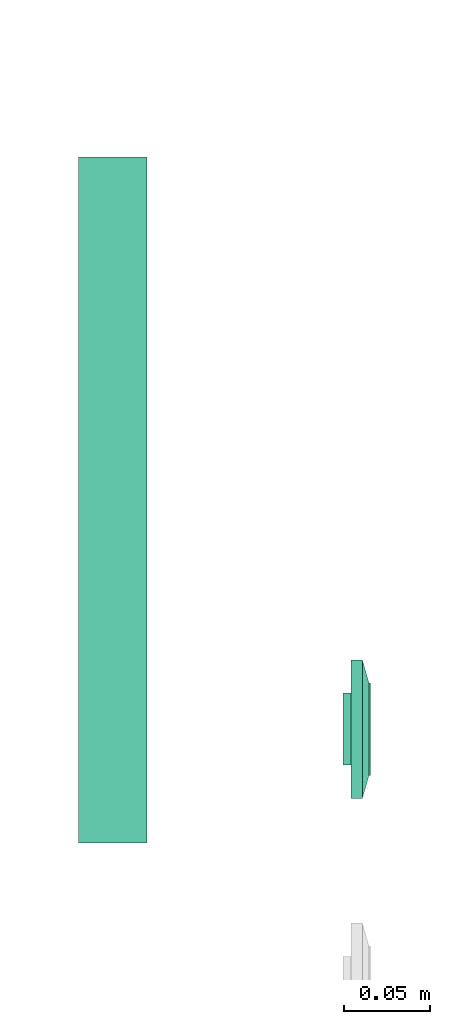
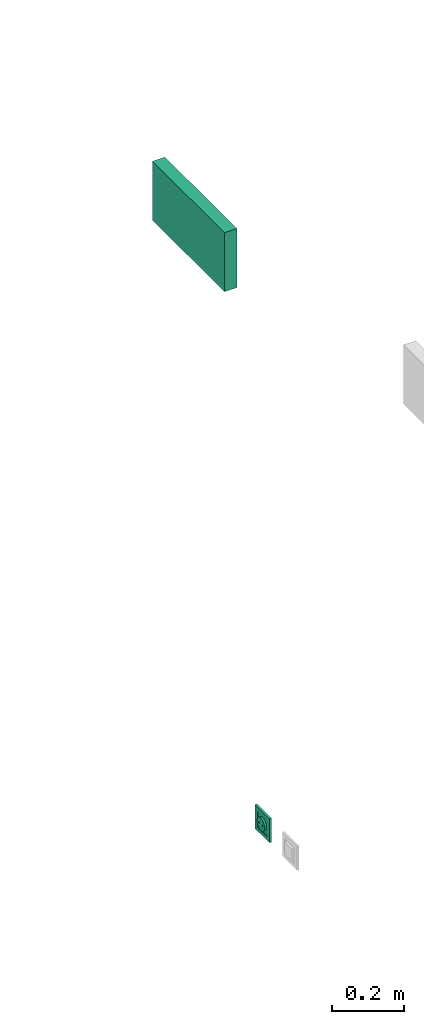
# One storey, part 63 of 146: 2 flow terminals.
"""IFC2X3 building model written with IfcOpenShell, lengths in metres."""

from ifc_helpers import new_model, entity, si_unit, converted_unit, derived_unit, direction, frame, frame_2d, origin, place, context, subcontext, project, spatial, rectangle, extrude, face_set, surface_model, source, transform, mapped, type_object, type_shapes, element, save


model = new_model("IFC2X3")

# Units and contexts
model_context = context("Model", 3, precision=1e-05, world=origin(), true_north=direction((6.12303176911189e-17, 1.0)))
body_context = subcontext(model_context, "Body", "Model", "MODEL_VIEW")
ifc_project = project(units=[si_unit("LENGTHUNIT", "METRE"), si_unit("AREAUNIT", "SQUARE_METRE"), si_unit("VOLUMEUNIT", "CUBIC_METRE"), converted_unit("PLANEANGLEUNIT", "DEGREE", entity("IfcRatioMeasure", 0.0174532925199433), si_unit("PLANEANGLEUNIT", "RADIAN"), dimensions=[0, 0, 0, 0, 0, 0, 0]), si_unit("MASSUNIT", "GRAM", prefix="KILO"), derived_unit("MASSDENSITYUNIT", [(si_unit("MASSUNIT", "GRAM", prefix="KILO"), 1), (si_unit("LENGTHUNIT", "METRE"), -3)]), si_unit("TIMEUNIT", "SECOND"), si_unit("FREQUENCYUNIT", "HERTZ"), si_unit("THERMODYNAMICTEMPERATUREUNIT", "DEGREE_CELSIUS"), derived_unit("THERMALTRANSMITTANCEUNIT", [(si_unit("MASSUNIT", "GRAM", prefix="KILO"), 1), (si_unit("THERMODYNAMICTEMPERATUREUNIT", "KELVIN"), -1), (si_unit("TIMEUNIT", "SECOND"), -3)]), derived_unit("VOLUMETRICFLOWRATEUNIT", [(si_unit("LENGTHUNIT", "METRE"), 3), (si_unit("TIMEUNIT", "SECOND"), -1)]), si_unit("ELECTRICCURRENTUNIT", "AMPERE"), si_unit("ELECTRICVOLTAGEUNIT", "VOLT"), si_unit("POWERUNIT", "WATT"), si_unit("FORCEUNIT", "NEWTON"), si_unit("ILLUMINANCEUNIT", "LUX"), si_unit("LUMINOUSFLUXUNIT", "LUMEN"), si_unit("LUMINOUSINTENSITYUNIT", "CANDELA"), derived_unit("USERDEFINED", [(si_unit("MASSUNIT", "GRAM", prefix="KILO"), -1), (si_unit("LENGTHUNIT", "METRE"), -2), (si_unit("TIMEUNIT", "SECOND"), 3), (si_unit("LUMINOUSFLUXUNIT", "LUMEN"), 1)]), derived_unit("LINEARVELOCITYUNIT", [(si_unit("LENGTHUNIT", "METRE"), 1), (si_unit("TIMEUNIT", "SECOND"), -1)]), si_unit("PRESSUREUNIT", "PASCAL"), derived_unit("USERDEFINED", [(si_unit("LENGTHUNIT", "METRE"), -2), (si_unit("MASSUNIT", "GRAM", prefix="KILO"), 1), (si_unit("TIMEUNIT", "SECOND"), -2)])], contexts=[model_context])

# Site, building, storey
site_placement = place(None, origin())
site = spatial("IfcSite", under=ifc_project, at=site_placement, Name="Default", CompositionType="ELEMENT")
building_placement = place(site_placement, origin())
building = spatial("IfcBuilding", under=site, at=building_placement, CompositionType="ELEMENT")
storey_placement = place(building_placement, origin())
storey = spatial("IfcBuildingStorey", under=building, at=storey_placement, Name="S01", CompositionType="ELEMENT", Elevation=0.0)

# Flow terminals
light_fixture_type = type_object("IfcLightFixtureType", Name="PC IP21", PredefinedType="NOTDEFINED")
shared_shape_1 = source(origin(), body_context, "Body", "SurfaceModel", [
    surface_model("IfcFaceBasedSurfaceModel", [(-0.00225000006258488, 0.0127499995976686, 0.00949633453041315), (0.0, 0.0104999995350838, 0.00949633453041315), (0.0, 0.0115376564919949, 0.0101656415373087), (0.0, 0.0139623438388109, 0.0101656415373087), (0.0, 0.0144589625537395, 0.00984531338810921), (0.0, 0.0121178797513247, 0.0102778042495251), (0.0, 0.0133821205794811, 0.0102778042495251), (0.0, 0.0127499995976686, 0.010399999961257), (0.0, 0.0149999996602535, 0.00949633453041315), (0.00225000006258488, 0.0127499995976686, 0.00949633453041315), (0.0, 0.0110410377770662, 0.00984531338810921), (0.0, 0.0127499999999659, 0.00949633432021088), (0.00225000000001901, 0.0127499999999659, 0.00949633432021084), (0.00217333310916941, 0.0121676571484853, 0.00949633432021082), (0.00194855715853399, 0.0116249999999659, 0.00949633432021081), (0.00159099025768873, 0.0111590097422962, 0.00949633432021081), (0.001125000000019, 0.010801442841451, 0.00949633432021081), (0.00058234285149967, 0.0105766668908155, 0.00949633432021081), (0.0, 0.0104999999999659, 0.00949633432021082), (-0.000582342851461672, 0.0105766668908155, 0.00949633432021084), (-0.001124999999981, 0.010801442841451, 0.00949633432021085), (-0.00159099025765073, 0.0111590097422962, 0.00949633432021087), (-0.00194855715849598, 0.011624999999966, 0.00949633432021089), (-0.0021733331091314, 0.0121676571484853, 0.00949633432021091), (-0.00224999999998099, 0.012749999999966, 0.00949633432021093), (-0.00217333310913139, 0.0133323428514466, 0.00949633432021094), (-0.00194855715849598, 0.013874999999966, 0.00949633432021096), (-0.00159099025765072, 0.0143409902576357, 0.00949633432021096), (-0.00112499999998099, 0.0146985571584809, 0.00949633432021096), (-0.00058234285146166, 0.0149233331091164, 0.00949633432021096), (0.0, 0.0149999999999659, 0.00949633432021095), (0.000582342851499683, 0.0149233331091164, 0.00949633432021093), (0.00112500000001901, 0.0146985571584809, 0.00949633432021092), (0.00159099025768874, 0.0143409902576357, 0.00949633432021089), (0.001948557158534, 0.0138749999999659, 0.00949633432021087), (0.00217333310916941, 0.0133323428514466, 0.00949633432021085), (0.00225000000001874, 0.0127499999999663, -0.00360000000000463), (0.00217333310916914, 0.0121676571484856, -0.00360000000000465), (0.00194855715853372, 0.0116249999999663, -0.00360000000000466), (0.00159099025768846, 0.0111590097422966, -0.00360000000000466), (0.00112500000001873, 0.0108014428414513, -0.00360000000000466), (0.000582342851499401, 0.0105766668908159, -0.00360000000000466), (0.0, 0.0104999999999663, -0.00360000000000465), (-0.000582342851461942, 0.0105766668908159, -0.00360000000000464), (-0.00112499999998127, 0.0108014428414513, -0.00360000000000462), (-0.001590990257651, 0.0111590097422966, -0.0036000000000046), (-0.00194855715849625, 0.0116249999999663, -0.00360000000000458), (-0.00217333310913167, 0.0121676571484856, -0.00360000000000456), (-0.00224999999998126, 0.0127499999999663, -0.00360000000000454), (-0.00217333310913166, 0.013332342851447, -0.00360000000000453), (-0.00194855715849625, 0.0138749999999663, -0.00360000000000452), (-0.00159099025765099, 0.014340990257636, -0.00360000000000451), (-0.00112499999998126, 0.0146985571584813, -0.00360000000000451), (-0.000582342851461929, 0.0149233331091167, -0.00360000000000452), (0.0, 0.0149999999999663, -0.00360000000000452), (0.000582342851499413, 0.0149233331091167, -0.00360000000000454), (0.00112500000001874, 0.0146985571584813, -0.00360000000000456), (0.00159099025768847, 0.014340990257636, -0.00360000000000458), (0.00194855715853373, 0.0138749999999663, -0.0036000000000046), (0.00217333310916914, 0.013332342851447, -0.00360000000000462), (0.0270000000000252, 0.026999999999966, 0.0113999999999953), (-0.0269999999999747, 0.026999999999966, 0.0113999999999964), (-0.0269999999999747, -0.0270000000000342, 0.0113999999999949), (0.0270000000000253, -0.0270000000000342, 0.0113999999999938), (-0.0199999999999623, 0.0, 0.0113999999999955), (-0.0193185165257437, -0.00517638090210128, 0.0113999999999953), (-0.0173205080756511, -0.0100000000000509, 0.0113999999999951), (-0.0141421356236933, -0.0141421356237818, 0.011399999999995), (-0.00999999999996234, -0.0173205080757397, 0.0113999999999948), (-0.00517638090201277, -0.0193185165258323, 0.0113999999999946), (0.0, -0.0200000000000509, 0.0113999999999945), (0.00517638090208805, -0.0193185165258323, 0.0113999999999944), (0.0100000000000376, -0.0173205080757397, 0.0113999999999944), (0.0141421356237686, -0.0141421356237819, 0.0113999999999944), (0.0173205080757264, -0.010000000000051, 0.0113999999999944), (0.0193185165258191, -0.00517638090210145, 0.0113999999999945), (0.0200000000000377, 0.0, 0.0113999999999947), (0.0193185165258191, 0.00517638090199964, 0.0113999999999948), (0.0173205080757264, 0.0099999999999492, 0.011399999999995), (0.0141421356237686, 0.0141421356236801, 0.0113999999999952), (0.0100000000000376, 0.0173205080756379, 0.0113999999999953), (0.00517638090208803, 0.0193185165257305, 0.0113999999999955), (0.0, 0.0199999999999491, 0.0113999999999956), (-0.00517638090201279, 0.0193185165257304, 0.0113999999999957), (-0.00999999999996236, 0.0173205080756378, 0.0113999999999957), (-0.0141421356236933, 0.01414213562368, 0.0113999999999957), (-0.0173205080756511, 0.00999999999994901, 0.0113999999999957), (-0.0193185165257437, 0.00517638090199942, 0.0113999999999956), (0.0270000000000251, 0.0269999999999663, 0.00199999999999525), (0.0270000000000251, -0.0270000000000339, 0.00199999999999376), (-0.0269999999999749, -0.0270000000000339, 0.00199999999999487), (-0.0269999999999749, 0.0269999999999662, 0.00199999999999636), (0.0210000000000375, 0.0, 0.00199999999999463), (0.0202844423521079, -0.00543519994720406, 0.00199999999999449), (0.0181865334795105, -0.0105000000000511, 0.0019999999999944), (0.0148492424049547, -0.0148492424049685, 0.00199999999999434), (0.0105000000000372, -0.0181865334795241, 0.00199999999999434), (0.0054351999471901, -0.0202844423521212, 0.00199999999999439), (0.0, -0.0210000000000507, 0.00199999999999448), (-0.00543519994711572, -0.020284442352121, 0.00199999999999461), (-0.0104999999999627, -0.0181865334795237, 0.00199999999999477), (-0.0148492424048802, -0.014849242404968, 0.00199999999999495), (-0.0181865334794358, -0.0105000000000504, 0.00199999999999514), (-0.020284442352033, -0.00543519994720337, 0.00199999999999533), (-0.0209999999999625, 0.0, 0.00199999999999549), (-0.0202844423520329, 0.0054351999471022, 0.00199999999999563), (-0.0181865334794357, 0.0104999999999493, 0.00199999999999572), (-0.01484924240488, 0.0148492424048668, 0.00199999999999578), (-0.0104999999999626, 0.0181865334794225, 0.00199999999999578), (-0.00543519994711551, 0.0202844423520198, 0.00199999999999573), (0.0, 0.0209999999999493, 0.00199999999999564), (0.00543519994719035, 0.0202844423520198, 0.00199999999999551), (0.0105000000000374, 0.0181865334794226, 0.00199999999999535), (0.0148492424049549, 0.0148492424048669, 0.00199999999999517), (0.0181865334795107, 0.0104999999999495, 0.00199999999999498), (0.0202844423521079, 0.00543519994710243, 0.00199999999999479), (0.0200000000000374, 0.0, -0.00360000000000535), (0.0193185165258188, -0.00517638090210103, -0.00360000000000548), (0.0173205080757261, -0.0100000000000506, -0.00360000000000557), (0.0141421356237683, -0.0141421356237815, -0.00360000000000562), (0.0100000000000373, -0.0173205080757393, -0.00360000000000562), (0.00517638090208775, -0.0193185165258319, -0.00360000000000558), (0.0, -0.0200000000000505, -0.00360000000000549), (-0.00517638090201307, -0.0193185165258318, -0.00360000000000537), (-0.00999999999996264, -0.0173205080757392, -0.00360000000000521), (-0.0141421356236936, -0.0141421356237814, -0.00360000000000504), (-0.0173205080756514, -0.0100000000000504, -0.00360000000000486), (-0.019318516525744, -0.00517638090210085, -0.00360000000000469), (-0.0199999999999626, 0.0, -0.00360000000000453), (-0.0193185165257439, 0.00517638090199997, -0.0036000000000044), (-0.0173205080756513, 0.00999999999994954, -0.00360000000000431), (-0.0141421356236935, 0.0141421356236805, -0.00360000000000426), (-0.00999999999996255, 0.0173205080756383, -0.00360000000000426), (-0.00517638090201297, 0.0193185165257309, -0.0036000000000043), (0.0, 0.0199999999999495, -0.00360000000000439), (0.00517638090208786, 0.0193185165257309, -0.00360000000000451), (0.0100000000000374, 0.0173205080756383, -0.00360000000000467), (0.0141421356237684, 0.0141421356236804, -0.00360000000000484), (0.0173205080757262, 0.0099999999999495, -0.00360000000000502), (0.0193185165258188, 0.00517638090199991, -0.00360000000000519), (-0.0123499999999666, 0.0, -0.00360000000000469), (-0.0122562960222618, -0.000711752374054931, -0.00360000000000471), (-0.0119815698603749, -0.00137500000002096, -0.00360000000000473), (-0.0115445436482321, -0.00194454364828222, -0.00360000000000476), (-0.0109749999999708, -0.00238156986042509, -0.00360000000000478), (-0.0103117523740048, -0.00265629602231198, -0.0036000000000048), (-0.00959999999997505, -0.00275000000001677, -0.00360000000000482), (-0.0088882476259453, -0.00265629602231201, -0.00360000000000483), (-0.00822499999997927, -0.00238156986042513, -0.00360000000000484), (-0.00765545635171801, -0.00194454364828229, -0.00360000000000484), (-0.00721843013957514, -0.00137500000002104, -0.00360000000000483), (-0.00694370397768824, -0.000711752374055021, -0.00360000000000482), (-0.00684999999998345, 0.0, -0.0036000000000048), (-0.00694370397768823, 0.000711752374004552, -0.00360000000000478), (-0.00721843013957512, 0.00137499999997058, -0.00360000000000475), (-0.00765545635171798, 0.00194454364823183, -0.00360000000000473), (-0.00822499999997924, 0.00238156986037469, -0.0036000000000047), (-0.00888824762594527, 0.00265629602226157, -0.00360000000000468), (-0.00959999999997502, 0.00274999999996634, -0.00360000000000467), (-0.0103117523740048, 0.00265629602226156, -0.00360000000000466), (-0.0109749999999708, 0.00238156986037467, -0.00360000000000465), (-0.011544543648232, 0.00194454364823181, -0.00360000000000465), (-0.0119815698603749, 0.00137499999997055, -0.00360000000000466), (-0.0122562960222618, 0.000711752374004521, -0.00360000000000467), (0.00685000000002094, 0.0, -0.00360000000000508), (0.0069437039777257, -0.00071175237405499, -0.0036000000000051), (0.00721843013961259, -0.00137500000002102, -0.00360000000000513), (0.00765545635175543, -0.00194454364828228, -0.00360000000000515), (0.00822500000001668, -0.00238156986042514, -0.00360000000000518), (0.00888824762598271, -0.00265629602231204, -0.0036000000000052), (0.00960000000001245, -0.00275000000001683, -0.00360000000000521), (0.0103117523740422, -0.00265629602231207, -0.00360000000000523), (0.0109750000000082, -0.00238156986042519, -0.00360000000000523), (0.0115445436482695, -0.00194454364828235, -0.00360000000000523), (0.0119815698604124, -0.0013750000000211, -0.00360000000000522), (0.0122562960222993, -0.00071175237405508, -0.00360000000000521), (0.012350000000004, 0.0, -0.00360000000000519), (0.0122562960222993, 0.000711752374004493, -0.00360000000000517), (0.0119815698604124, 0.00137499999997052, -0.00360000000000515), (0.0115445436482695, 0.00194454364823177, -0.00360000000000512), (0.0109750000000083, 0.00238156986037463, -0.0036000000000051), (0.0103117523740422, 0.00265629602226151, -0.00360000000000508), (0.00960000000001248, 0.00274999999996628, -0.00360000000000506), (0.00888824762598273, 0.0026562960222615, -0.00360000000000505), (0.0082250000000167, 0.00238156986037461, -0.00360000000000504), (0.00765545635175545, 0.00194454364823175, -0.00360000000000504), (0.0072184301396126, 0.00137499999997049, -0.00360000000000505), (0.00694370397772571, 0.000711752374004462, -0.00360000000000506), (0.0210000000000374, 0.0, -0.00460000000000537), (0.0202844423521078, -0.00543519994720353, -0.00460000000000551), (0.0181865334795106, -0.0105000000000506, -0.0046000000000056), (0.0148492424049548, -0.0148492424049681, -0.00460000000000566), (0.0105000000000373, -0.0181865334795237, -0.00460000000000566), (0.00543519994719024, -0.0202844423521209, -0.00460000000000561), (0.0, -0.0210000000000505, -0.00460000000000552), (-0.00543519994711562, -0.0202844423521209, -0.00460000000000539), (-0.0104999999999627, -0.0181865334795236, -0.00460000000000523), (-0.0148492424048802, -0.0148492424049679, -0.00460000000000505), (-0.0181865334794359, -0.0105000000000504, -0.00460000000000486), (-0.0202844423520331, -0.00543519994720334, -0.00460000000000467), (-0.0209999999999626, 0.0, -0.00460000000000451), (-0.020284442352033, 0.00543519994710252, -0.00460000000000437), (-0.0181865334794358, 0.0104999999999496, -0.00460000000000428), (-0.0148492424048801, 0.0148492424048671, -0.00460000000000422), (-0.0104999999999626, 0.0181865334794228, -0.00460000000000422), (-0.00543519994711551, 0.02028444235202, -0.00460000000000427), (0.0, 0.0209999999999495, -0.00460000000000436), (0.00543519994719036, 0.02028444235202, -0.00460000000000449), (0.0105000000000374, 0.0181865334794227, -0.00460000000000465), (0.0148492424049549, 0.014849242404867, -0.00460000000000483), (0.0181865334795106, 0.0104999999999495, -0.00460000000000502), (0.0202844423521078, 0.00543519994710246, -0.00460000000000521), (-0.00684999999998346, 0.0, -0.0046000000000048), (-0.00694370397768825, 0.000711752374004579, -0.00460000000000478), (-0.00721843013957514, 0.00137499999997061, -0.00460000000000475), (-0.007655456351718, 0.00194454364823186, -0.00460000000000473), (-0.00822499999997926, 0.00238156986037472, -0.0046000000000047), (-0.00888824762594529, 0.0026562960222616, -0.00460000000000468), (-0.00959999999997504, 0.00274999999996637, -0.00460000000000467), (-0.0103117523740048, 0.00265629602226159, -0.00460000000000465), (-0.0109749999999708, 0.0023815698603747, -0.00460000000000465), (-0.0115445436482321, 0.00194454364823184, -0.00460000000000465), (-0.0119815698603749, 0.00137499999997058, -0.00460000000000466), (-0.0122562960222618, 0.000711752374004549, -0.00460000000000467), (-0.0123499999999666, 0.0, -0.00460000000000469), (-0.0122562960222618, -0.000711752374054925, -0.00460000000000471), (-0.0119815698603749, -0.00137500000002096, -0.00460000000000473), (-0.0115445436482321, -0.00194454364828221, -0.00460000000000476), (-0.0109749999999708, -0.00238156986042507, -0.00460000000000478), (-0.0103117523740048, -0.00265629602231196, -0.0046000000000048), (-0.00959999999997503, -0.00275000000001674, -0.00460000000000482), (-0.00888824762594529, -0.00265629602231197, -0.00460000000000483), (-0.00822499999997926, -0.00238156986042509, -0.00460000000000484), (-0.007655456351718, -0.00194454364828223, -0.00460000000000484), (-0.00721843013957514, -0.00137500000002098, -0.00460000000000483), (-0.00694370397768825, -0.000711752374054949, -0.00460000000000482), (0.012350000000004, 0.0, -0.00460000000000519), (0.0122562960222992, 0.000711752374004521, -0.00460000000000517), (0.0119815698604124, 0.00137499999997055, -0.00460000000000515), (0.0115445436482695, 0.0019445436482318, -0.00460000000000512), (0.0109750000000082, 0.00238156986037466, -0.0046000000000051), (0.0103117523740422, 0.00265629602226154, -0.00460000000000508), (0.00960000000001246, 0.00274999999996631, -0.00460000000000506), (0.00888824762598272, 0.00265629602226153, -0.00460000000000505), (0.00822500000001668, 0.00238156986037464, -0.00460000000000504), (0.00765545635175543, 0.00194454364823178, -0.00460000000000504), (0.00721843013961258, 0.00137499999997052, -0.00460000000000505), (0.00694370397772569, 0.00071175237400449, -0.00460000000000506), (0.00685000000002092, 0.0, -0.00460000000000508), (0.00694370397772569, -0.000711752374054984, -0.0046000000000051), (0.00721843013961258, -0.00137500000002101, -0.00460000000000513), (0.00765545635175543, -0.00194454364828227, -0.00460000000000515), (0.00822500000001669, -0.00238156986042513, -0.00460000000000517), (0.00888824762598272, -0.00265629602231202, -0.0046000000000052), (0.00960000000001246, -0.0027500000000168, -0.00460000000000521), (0.0103117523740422, -0.00265629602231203, -0.00460000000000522), (0.0109750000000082, -0.00238156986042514, -0.00460000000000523), (0.0115445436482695, -0.00194454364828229, -0.00460000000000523), (0.0119815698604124, -0.00137500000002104, -0.00460000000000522), (0.0122562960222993, -0.000711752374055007, -0.00460000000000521), (0.040350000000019, 0.0403499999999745, 0.00659999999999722), (0.040350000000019, -0.0403500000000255, 0.00659999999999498), (-0.0403499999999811, -0.0403500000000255, 0.00659999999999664), (-0.0403499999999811, 0.0403499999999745, 0.00659999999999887), (0.027000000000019, 0.0269999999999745, 0.00659999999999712), (-0.0269999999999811, 0.0269999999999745, 0.00659999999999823), (-0.026999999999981, -0.0270000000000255, 0.00659999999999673), (0.027000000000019, -0.0270000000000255, 0.00659999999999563), (0.027000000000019, 0.0269999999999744, 0.0103999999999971), (-0.026999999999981, 0.0269999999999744, 0.0103999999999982), (-0.026999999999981, -0.0270000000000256, 0.0103999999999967), (0.027000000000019, -0.0270000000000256, 0.0103999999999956), (0.040350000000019, 0.0403499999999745, 0.00659999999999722), (0.040350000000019, -0.0403500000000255, 0.00659999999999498), (-0.0403499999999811, -0.0403500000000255, 0.00659999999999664), (-0.0403499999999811, 0.0403499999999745, 0.00659999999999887), (-0.0269999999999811, 0.0269999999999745, 0.00659999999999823), (-0.0269999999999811, -0.0270000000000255, 0.00659999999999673), (0.0270000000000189, -0.0270000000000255, 0.00659999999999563), (0.0270000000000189, 0.0269999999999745, 0.00659999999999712), (0.0403500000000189, 0.0403499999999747, 0.0), (0.0403500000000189, -0.0403500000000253, 0.0), (-0.0403499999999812, -0.0403500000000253, 0.0), (-0.0403499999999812, 0.0403499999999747, 0.0), (0.0270000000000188, 0.0269999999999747, 0.0), (-0.0269999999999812, 0.0269999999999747, 0.0), (-0.0269999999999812, -0.0270000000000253, 0.0), (0.0270000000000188, -0.0270000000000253, 0.0)], [face_set([[[0, 1, 2]], [[3, 4, 2, 5]], [[6, 3, 5, 7]], [[2, 4, 0]], [[4, 8, 0]], [[3, 9, 8]], [[1, 9, 10]], [[2, 3, 6, 7]], [[3, 10, 9]], [[2, 10, 3]], [[11, 1, 0, 8]], [[11, 8, 9, 1]]]), face_set([[[12, 13, 14, 15, 16, 17, 18, 19, 20, 21, 22, 23, 24, 25, 26, 27, 28, 29, 30, 31, 32, 33, 34, 35]], [[36, 37, 38, 39, 40, 41, 42, 43, 44, 45, 46, 47, 48, 49, 50, 51, 52, 53, 54, 55, 56, 57, 58, 59]], [[48, 47, 23, 24]], [[47, 46, 22, 23]], [[45, 44, 20, 21]], [[46, 45, 21, 22]], [[44, 43, 19, 20]], [[18, 19, 43, 42]], [[42, 41, 17, 18]], [[41, 40, 16, 17]], [[39, 38, 14, 15]], [[40, 39, 15, 16]], [[38, 37, 13, 14]], [[12, 13, 37, 36]], [[36, 59, 35, 12]], [[59, 58, 34, 35]], [[57, 56, 32, 33]], [[58, 57, 33, 34]], [[56, 55, 31, 32]], [[30, 31, 55, 54]], [[54, 53, 29, 30]], [[53, 52, 28, 29]], [[51, 50, 26, 27]], [[52, 51, 27, 28]], [[50, 49, 25, 26]], [[24, 25, 49, 48]]]), face_set([[[60, 61, 62, 63], [64, 65, 66, 67, 68, 69, 70, 71, 72, 73, 74, 75, 76, 77, 78, 79, 80, 81, 82, 83, 84, 85, 86, 87]], [[88, 89, 90, 91], [92, 93, 94, 95, 96, 97, 98, 99, 100, 101, 102, 103, 104, 105, 106, 107, 108, 109, 110, 111, 112, 113, 114, 115]], [[61, 60, 88, 91]], [[62, 61, 91, 90]], [[63, 62, 90, 89]], [[60, 63, 89, 88]], [[116, 117, 118, 119, 120, 121, 122, 123, 124, 125, 126, 127, 128, 129, 130, 131, 132, 133, 134, 135, 136, 137, 138, 139], [140, 141, 142, 143, 144, 145, 146, 147, 148, 149, 150, 151, 152, 153, 154, 155, 156, 157, 158, 159, 160, 161, 162, 163], [164, 165, 166, 167, 168, 169, 170, 171, 172, 173, 174, 175, 176, 177, 178, 179, 180, 181, 182, 183, 184, 185, 186, 187]], [[64, 128, 127, 65]], [[65, 127, 126, 66]], [[67, 125, 124, 68]], [[66, 126, 125, 67]], [[68, 124, 123, 69]], [[122, 70, 69, 123]], [[70, 122, 121, 71]], [[71, 121, 120, 72]], [[73, 119, 118, 74]], [[72, 120, 119, 73]], [[74, 118, 117, 75]], [[116, 76, 75, 117]], [[76, 116, 139, 77]], [[77, 139, 138, 78]], [[79, 137, 136, 80]], [[78, 138, 137, 79]], [[80, 136, 135, 81]], [[134, 82, 81, 135]], [[82, 134, 133, 83]], [[83, 133, 132, 84]], [[84, 132, 131, 85]], [[85, 131, 130, 86]], [[130, 129, 87, 86]], [[64, 87, 129, 128]], [[188, 189, 190, 191, 192, 193, 194, 195, 196, 197, 198, 199, 200, 201, 202, 203, 204, 205, 206, 207, 208, 209, 210, 211], [212, 213, 214, 215, 216, 217, 218, 219, 220, 221, 222, 223, 224, 225, 226, 227, 228, 229, 230, 231, 232, 233, 234, 235], [236, 237, 238, 239, 240, 241, 242, 243, 244, 245, 246, 247, 248, 249, 250, 251, 252, 253, 254, 255, 256, 257, 258, 259]], [[200, 199, 103, 104]], [[199, 198, 102, 103]], [[197, 196, 100, 101]], [[198, 197, 101, 102]], [[196, 195, 99, 100]], [[98, 99, 195, 194]], [[194, 193, 97, 98]], [[193, 192, 96, 97]], [[191, 190, 94, 95]], [[192, 191, 95, 96]], [[190, 189, 93, 94]], [[92, 93, 189, 188]], [[188, 211, 115, 92]], [[211, 210, 114, 115]], [[209, 208, 112, 113]], [[210, 209, 113, 114]], [[208, 207, 111, 112]], [[110, 111, 207, 206]], [[206, 205, 109, 110]], [[205, 204, 108, 109]], [[203, 202, 106, 107]], [[204, 203, 107, 108]], [[202, 201, 105, 106]], [[104, 105, 201, 200]], [[141, 225, 226, 142]], [[140, 224, 225, 141]], [[144, 228, 229, 145]], [[143, 227, 228, 144]], [[142, 226, 227, 143]], [[230, 146, 145, 229]], [[149, 233, 232, 148]], [[148, 232, 231, 147]], [[152, 212, 235, 151]], [[151, 235, 234, 150]], [[150, 234, 233, 149]], [[146, 230, 231, 147]], [[154, 214, 213, 153]], [[153, 213, 212, 152]], [[157, 217, 216, 156]], [[156, 216, 215, 155]], [[155, 215, 214, 154]], [[218, 158, 157, 217]], [[160, 220, 221, 161]], [[159, 219, 220, 160]], [[163, 223, 224, 140]], [[162, 222, 223, 163]], [[161, 221, 222, 162]], [[158, 218, 219, 159]], [[166, 250, 249, 165]], [[165, 249, 248, 164]], [[169, 253, 252, 168]], [[168, 252, 251, 167]], [[167, 251, 250, 166]], [[254, 170, 169, 253]], [[172, 256, 257, 173]], [[171, 255, 256, 172]], [[175, 259, 236, 176]], [[174, 258, 259, 175]], [[173, 257, 258, 174]], [[170, 254, 255, 171]], [[177, 237, 238, 178]], [[176, 236, 237, 177]], [[180, 240, 241, 181]], [[179, 239, 240, 180]], [[178, 238, 239, 179]], [[242, 182, 181, 241]], [[185, 245, 244, 184]], [[184, 244, 243, 183]], [[164, 248, 247, 187]], [[187, 247, 246, 186]], [[186, 246, 245, 185]], [[182, 242, 243, 183]]]), face_set([[[260, 261, 262, 263], [264, 265, 266, 267]], [[260, 268, 269, 263]], [[263, 269, 270, 262]], [[262, 270, 271, 261]], [[261, 271, 268, 260]], [[264, 265, 269, 268]], [[265, 266, 270, 269]], [[266, 267, 271, 270]], [[268, 271, 267, 264]]]), face_set([[[272, 273, 274, 275], [276, 277, 278, 279]], [[280, 281, 282, 283], [284, 285, 286, 287]], [[275, 272, 280, 283]], [[274, 275, 283, 282]], [[273, 274, 282, 281]], [[272, 273, 281, 280]], [[284, 285, 276, 279]], [[285, 286, 277, 276]], [[286, 287, 278, 277]], [[279, 278, 287, 284]]])]),
])
type_shapes(light_fixture_type, [shared_shape_1])
flow_terminal_1_placement = place(storey_placement, frame((53.5477436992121, -189.341720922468, 0.300000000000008), z_axis=(1.0, 0.0, 0.0), x_axis=(0.0, 1.0, 0.0)))
element("IfcFlowTerminal", 1, at=flow_terminal_1_placement, inside=storey, type_object=light_fixture_type, Name="INT Prise de courant:PC IP21", ObjectType="INT Prise de courant:PC IP21", context=body_context, shape_type="MappedRepresentation", body=[
    mapped(shared_shape_1, transform((0.0, 0.0, 0.0), scale=1.0)),
])
electric_appliance_type = type_object("IfcElectricApplianceType", Name="Horloge secondaire", PredefinedType="NOTDEFINED")
shared_shape_2 = source(origin(), body_context, "Body", "SweptSolid", [
    extrude(rectangle(XDim=0.4, YDim=0.04, at=frame_2d((0.0, 1.73472347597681e-18), x_axis=(1.0, 0.0))), frame((0.0, 0.0, -0.199999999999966)), (0.0, 0.0, 1.0), 0.2),
])
type_shapes(electric_appliance_type, [shared_shape_2])
flow_terminal_2_placement = place(storey_placement, frame((53.4086765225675, -189.208069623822, 2.4), z_axis=(0.0, 0.0, 1.0), x_axis=(0.0, 1.0, 0.0)))
element("IfcFlowTerminal", 2, at=flow_terminal_2_placement, inside=storey, type_object=electric_appliance_type, Name="E_Clock_One Side Ceiling_MEPcontent:Horloge secondaire", ObjectType="E_Clock_One Side Ceiling_MEPcontent:Horloge secondaire", context=body_context, shape_type="MappedRepresentation", body=[
    mapped(shared_shape_2, transform((0.0, 0.0, 0.0), scale=1.0)),
])

save(model, "model.ifc")
